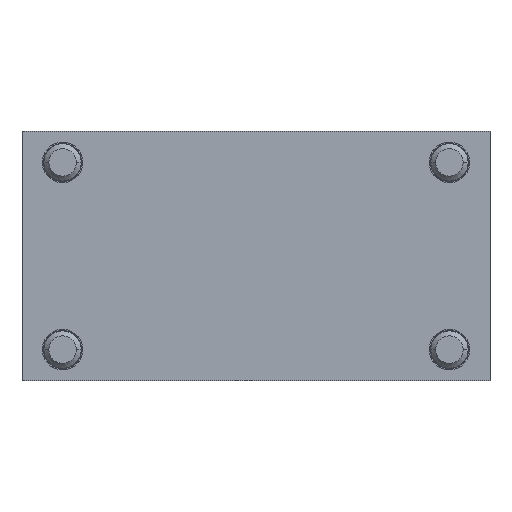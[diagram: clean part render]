
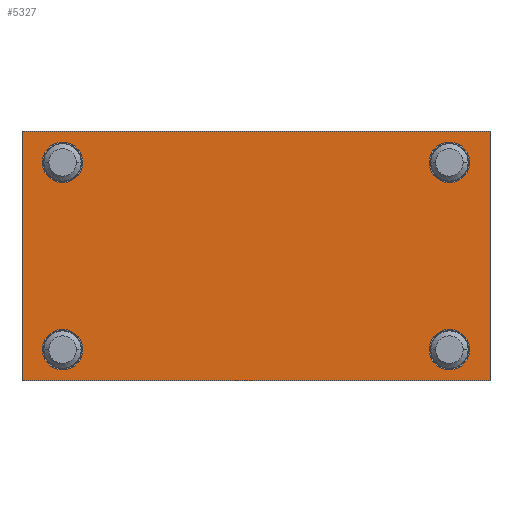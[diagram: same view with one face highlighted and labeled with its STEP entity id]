
A CAD part, front view. The second image highlights one B-rep face of the part: STEP entity #5327.
In plain terms, the highlighted planar face has unit normal (0, -1, 0).
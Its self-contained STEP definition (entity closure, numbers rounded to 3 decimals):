
#57 = DIRECTION ( 'NONE',  ( 0., 1., 0. ) ) ;
#659 = AXIS2_PLACEMENT_3D ( 'NONE', #5624, #13945, #7947 ) ;
#970 = ORIENTED_EDGE ( 'NONE', *, *, #22542, .F. ) ;
#1168 = CARTESIAN_POINT ( 'NONE',  ( 9.917, -2.314, 0. ) ) ;
#1940 = EDGE_CURVE ( 'NONE', #11217, #31517, #7971, .T. ) ;
#2106 = ORIENTED_EDGE ( 'NONE', *, *, #22924, .F. ) ;
#2883 = FACE_BOUND ( 'NONE', #7956, .T. ) ;
#2889 = AXIS2_PLACEMENT_3D ( 'NONE', #16607, #30549, #25180 ) ;
#2936 = LINE ( 'NONE', #6167, #18787 ) ;
#3868 = CARTESIAN_POINT ( 'NONE',  ( -58.583, -2.314, -11.75 ) ) ;
#4213 = EDGE_CURVE ( 'NONE', #10434, #28066, #22083, .T. ) ;
#4918 = CARTESIAN_POINT ( 'NONE',  ( -58.583, -2.314, 15. ) ) ;
#4983 = EDGE_CURVE ( 'NONE', #29010, #9478, #17478, .T. ) ;
#5240 = CARTESIAN_POINT ( 'NONE',  ( 3.417, -2.314, -11.75 ) ) ;
#5327 = ADVANCED_FACE ( 'NONE', ( #8779, #2883, #21724, #22270, #5732 ), #13545, .F. ) ;
#5624 = CARTESIAN_POINT ( 'NONE',  ( 3.417, -2.314, -15. ) ) ;
#5732 = FACE_OUTER_BOUND ( 'NONE', #10844, .T. ) ;
#6110 = EDGE_CURVE ( 'NONE', #30468, #10434, #19974, .T. ) ;
#6167 = CARTESIAN_POINT ( 'NONE',  ( -65.083, -2.314, 0. ) ) ;
#7290 = EDGE_CURVE ( 'NONE', #31096, #15898, #33809, .T. ) ;
#7441 = ORIENTED_EDGE ( 'NONE', *, *, #32733, .F. ) ;
#7815 = EDGE_CURVE ( 'NONE', #9478, #29010, #9415, .T. ) ;
#7947 = DIRECTION ( 'NONE',  ( 0., 0., 1. ) ) ;
#7956 = EDGE_LOOP ( 'NONE', ( #970, #27935 ) ) ;
#7971 = CIRCLE ( 'NONE', #23331, 3.25 ) ;
#8684 = ORIENTED_EDGE ( 'NONE', *, *, #12012, .F. ) ;
#8779 = FACE_BOUND ( 'NONE', #29442, .T. ) ;
#8926 = CARTESIAN_POINT ( 'NONE',  ( -58.583, -2.314, -18.25 ) ) ;
#9182 = CARTESIAN_POINT ( 'NONE',  ( -58.583, -2.314, -15. ) ) ;
#9183 = CIRCLE ( 'NONE', #2889, 3.25 ) ;
#9415 = CIRCLE ( 'NONE', #22473, 3.25 ) ;
#9478 = VERTEX_POINT ( 'NONE', #15708 ) ;
#9844 = LINE ( 'NONE', #12485, #18012 ) ;
#10434 = VERTEX_POINT ( 'NONE', #31526 ) ;
#10577 = ORIENTED_EDGE ( 'NONE', *, *, #1940, .F. ) ;
#10844 = EDGE_LOOP ( 'NONE', ( #2106, #25390, #20312, #29247 ) ) ;
#11217 = VERTEX_POINT ( 'NONE', #3868 ) ;
#11276 = DIRECTION ( 'NONE',  ( 0., -1., 0. ) ) ;
#11323 = VERTEX_POINT ( 'NONE', #24076 ) ;
#11337 = CARTESIAN_POINT ( 'NONE',  ( 3.417, -2.314, 15. ) ) ;
#11646 = DIRECTION ( 'NONE',  ( 0., 0., 1. ) ) ;
#12012 = EDGE_CURVE ( 'NONE', #31517, #11217, #9183, .T. ) ;
#12093 = EDGE_LOOP ( 'NONE', ( #7441, #23263 ) ) ;
#12415 = AXIS2_PLACEMENT_3D ( 'NONE', #24420, #57, #27263 ) ;
#12485 = CARTESIAN_POINT ( 'NONE',  ( -27.583, -2.314, 20. ) ) ;
#13364 = VECTOR ( 'NONE', #31052, 1000. ) ;
#13545 = PLANE ( 'NONE',  #12415 ) ;
#13656 = AXIS2_PLACEMENT_3D ( 'NONE', #11337, #30388, #22552 ) ;
#13945 = DIRECTION ( 'NONE',  ( 0., -1., 0. ) ) ;
#14218 = CARTESIAN_POINT ( 'NONE',  ( 3.417, -2.314, 18.25 ) ) ;
#14689 = DIRECTION ( 'NONE',  ( 0., -1., 0. ) ) ;
#15014 = VERTEX_POINT ( 'NONE', #20143 ) ;
#15469 = CARTESIAN_POINT ( 'NONE',  ( 9.917, -2.314, 20. ) ) ;
#15708 = CARTESIAN_POINT ( 'NONE',  ( -58.583, -2.314, 11.75 ) ) ;
#15766 = DIRECTION ( 'NONE',  ( 0., 0., 1. ) ) ;
#15898 = VERTEX_POINT ( 'NONE', #5240 ) ;
#16124 = EDGE_CURVE ( 'NONE', #11323, #33832, #33955, .T. ) ;
#16607 = CARTESIAN_POINT ( 'NONE',  ( -58.583, -2.314, -15. ) ) ;
#16684 = ORIENTED_EDGE ( 'NONE', *, *, #4983, .F. ) ;
#17478 = CIRCLE ( 'NONE', #28293, 3.25 ) ;
#18012 = VECTOR ( 'NONE', #33686, 1000. ) ;
#18787 = VECTOR ( 'NONE', #11646, 1000. ) ;
#19066 = EDGE_CURVE ( 'NONE', #15014, #30468, #9844, .T. ) ;
#19827 = DIRECTION ( 'NONE',  ( 0., -1., 0. ) ) ;
#19974 = LINE ( 'NONE', #1168, #13364 ) ;
#20143 = CARTESIAN_POINT ( 'NONE',  ( -65.083, -2.314, 20. ) ) ;
#20292 = AXIS2_PLACEMENT_3D ( 'NONE', #28671, #19827, #34181 ) ;
#20312 = ORIENTED_EDGE ( 'NONE', *, *, #6110, .F. ) ;
#20363 = DIRECTION ( 'NONE',  ( 0., 0., 1. ) ) ;
#21724 = FACE_BOUND ( 'NONE', #24320, .T. ) ;
#22083 = LINE ( 'NONE', #34506, #32877 ) ;
#22270 = FACE_BOUND ( 'NONE', #12093, .T. ) ;
#22473 = AXIS2_PLACEMENT_3D ( 'NONE', #4918, #11276, #15766 ) ;
#22542 = EDGE_CURVE ( 'NONE', #33832, #11323, #28442, .T. ) ;
#22552 = DIRECTION ( 'NONE',  ( 0., 0., 1. ) ) ;
#22843 = DIRECTION ( 'NONE',  ( 0., 0., 1. ) ) ;
#22924 = EDGE_CURVE ( 'NONE', #28066, #15014, #2936, .T. ) ;
#23066 = CARTESIAN_POINT ( 'NONE',  ( -58.583, -2.314, 15. ) ) ;
#23263 = ORIENTED_EDGE ( 'NONE', *, *, #7290, .F. ) ;
#23331 = AXIS2_PLACEMENT_3D ( 'NONE', #9182, #33865, #22843 ) ;
#24076 = CARTESIAN_POINT ( 'NONE',  ( 3.417, -2.314, 11.75 ) ) ;
#24320 = EDGE_LOOP ( 'NONE', ( #10577, #8684 ) ) ;
#24420 = CARTESIAN_POINT ( 'NONE',  ( -65.083, -2.314, -20. ) ) ;
#25180 = DIRECTION ( 'NONE',  ( 0., 0., 1. ) ) ;
#25390 = ORIENTED_EDGE ( 'NONE', *, *, #4213, .F. ) ;
#25992 = DIRECTION ( 'NONE',  ( -1., 0., 0. ) ) ;
#27251 = CARTESIAN_POINT ( 'NONE',  ( 3.417, -2.314, -15. ) ) ;
#27263 = DIRECTION ( 'NONE',  ( 0., 0., 1. ) ) ;
#27553 = AXIS2_PLACEMENT_3D ( 'NONE', #27251, #29387, #32762 ) ;
#27848 = CARTESIAN_POINT ( 'NONE',  ( -58.583, -2.314, 18.25 ) ) ;
#27920 = CIRCLE ( 'NONE', #659, 3.25 ) ;
#27935 = ORIENTED_EDGE ( 'NONE', *, *, #16124, .F. ) ;
#28066 = VERTEX_POINT ( 'NONE', #28731 ) ;
#28293 = AXIS2_PLACEMENT_3D ( 'NONE', #23066, #14689, #20363 ) ;
#28442 = CIRCLE ( 'NONE', #13656, 3.25 ) ;
#28671 = CARTESIAN_POINT ( 'NONE',  ( 3.417, -2.314, 15. ) ) ;
#28731 = CARTESIAN_POINT ( 'NONE',  ( -65.083, -2.314, -20. ) ) ;
#29010 = VERTEX_POINT ( 'NONE', #27848 ) ;
#29247 = ORIENTED_EDGE ( 'NONE', *, *, #19066, .F. ) ;
#29387 = DIRECTION ( 'NONE',  ( 0., -1., 0. ) ) ;
#29442 = EDGE_LOOP ( 'NONE', ( #16684, #29827 ) ) ;
#29453 = CARTESIAN_POINT ( 'NONE',  ( 3.417, -2.314, -18.25 ) ) ;
#29827 = ORIENTED_EDGE ( 'NONE', *, *, #7815, .F. ) ;
#30388 = DIRECTION ( 'NONE',  ( 0., -1., 0. ) ) ;
#30468 = VERTEX_POINT ( 'NONE', #15469 ) ;
#30549 = DIRECTION ( 'NONE',  ( 0., -1., 0. ) ) ;
#31052 = DIRECTION ( 'NONE',  ( 0., 0., -1. ) ) ;
#31096 = VERTEX_POINT ( 'NONE', #29453 ) ;
#31517 = VERTEX_POINT ( 'NONE', #8926 ) ;
#31526 = CARTESIAN_POINT ( 'NONE',  ( 9.917, -2.314, -20. ) ) ;
#32733 = EDGE_CURVE ( 'NONE', #15898, #31096, #27920, .T. ) ;
#32762 = DIRECTION ( 'NONE',  ( 0., 0., 1. ) ) ;
#32877 = VECTOR ( 'NONE', #25992, 1000. ) ;
#33686 = DIRECTION ( 'NONE',  ( 1., 0., 0. ) ) ;
#33809 = CIRCLE ( 'NONE', #27553, 3.25 ) ;
#33832 = VERTEX_POINT ( 'NONE', #14218 ) ;
#33865 = DIRECTION ( 'NONE',  ( 0., -1., 0. ) ) ;
#33955 = CIRCLE ( 'NONE', #20292, 3.25 ) ;
#34181 = DIRECTION ( 'NONE',  ( 0., 0., 1. ) ) ;
#34506 = CARTESIAN_POINT ( 'NONE',  ( -27.583, -2.314, -20. ) ) ;
